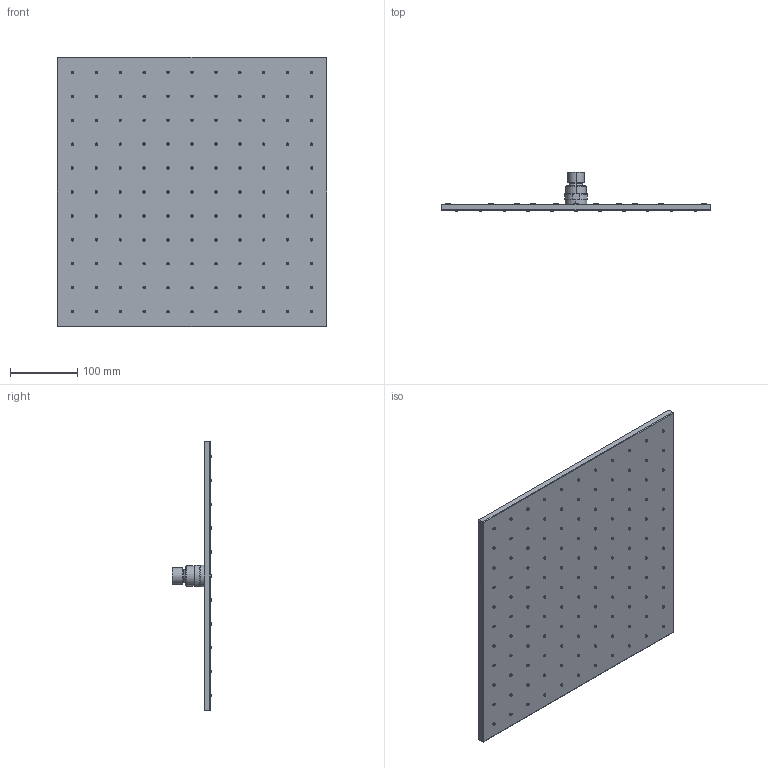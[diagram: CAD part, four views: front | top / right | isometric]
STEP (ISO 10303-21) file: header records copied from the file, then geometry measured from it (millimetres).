
FILE_DESCRIPTION(/* description */ (''),/* implementation_level */ '2;1');
FILE_NAME(/* name */ 'F2639_2',/* time_stamp */ '2025-04-04T16:18:53+02:00',/* author */ (''),/* organization */ (''),/* preprocessor_version */ 'ST-DEVELOPER v19.2',/* originating_system */ 'Rhino 8.1',/* authorisation */ '');
FILE_SCHEMA (('CONFIG_CONTROL_DESIGN'));
Length unit declared in the file: centimetre
Products named in the file (1): Document
Bounding box: 400 x 58 x 400 mm (x, y, z)
Volume: 1463804.3 mm3; surface area: 354934.2 mm2
Topology: 1 solids, 1 shells, 1285 faces, 2756 edges, 1830 vertices
Faces by surface type: cylinder 648, plane 625, bspline 12
Entity records: 37327 total; most frequent: CARTESIAN_POINT 10769, ORIENTED_EDGE 5512, DIRECTION 3889, EDGE_CURVE 2756, AXIS2_PLACEMENT_3D 2581, VERTEX_POINT 1830, EDGE_LOOP 1642, B_SPLINE_CURVE_WITH_KNOTS 1450
